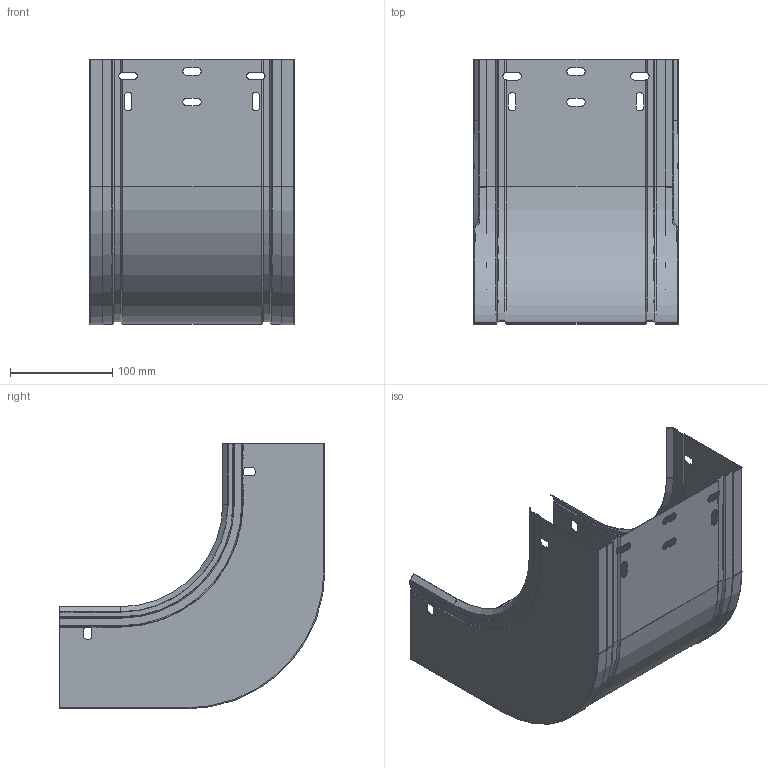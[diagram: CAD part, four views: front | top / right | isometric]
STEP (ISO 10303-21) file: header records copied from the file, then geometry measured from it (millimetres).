
FILE_DESCRIPTION (( 'STEP AP203' ), '1' );
FILE_NAME ('ERE_CONCAVA 200x100.step', '2023-07-27T18:54:20', ( '' ), ( '' ), 'SwSTEP 2.0', 'SolidWorks 2022', '' );
FILE_SCHEMA (( 'CONFIG_CONTROL_DESIGN' ));
Length unit declared in the file: millimetre
Products named in the file (3): ERE_LATERAL CC_100; ERE_CONCAVA 200x100; ERE_BASE CC_200x100
Assembly tree (3 placements, depth 2):
  ERE_CONCAVA 200x100
    ERE_BASE CC_200x100
    ERE_LATERAL CC_100  x2
Bounding box: 200 x 260 x 260 mm (x, y, z)
Volume: 146770.7 mm3; surface area: 370080.1 mm2
Topology: 3 solids, 3 shells, 234 faces, 642 edges, 402 vertices
Faces by surface type: plane 146, cylinder 62, cone 22, torus 4
Entity records: 6006 total; most frequent: CARTESIAN_POINT 1036, ORIENTED_EDGE 988, DIRECTION 969, EDGE_CURVE 494, LINE 353, VECTOR 353, VERTEX_POINT 311, AXIS2_PLACEMENT_3D 308
